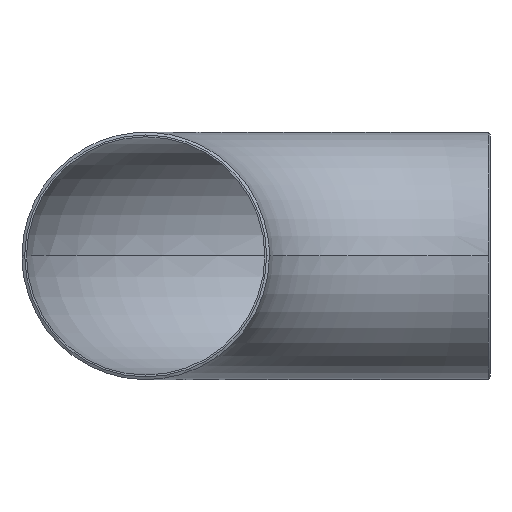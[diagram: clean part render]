
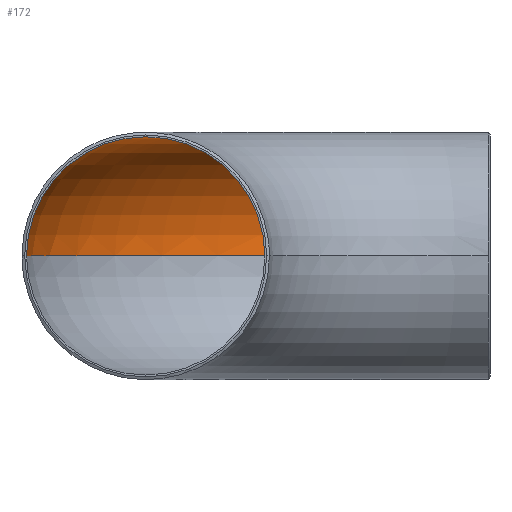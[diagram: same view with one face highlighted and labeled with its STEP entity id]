
A CAD part, front view. The second image highlights one B-rep face of the part: STEP entity #172.
In plain terms, the highlighted toroidal (fillet/blend) face has major radius 305 mm and minor radius 105.55 mm.
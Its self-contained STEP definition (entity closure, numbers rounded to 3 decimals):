
#8 = DIRECTION ( 'NONE',  ( 0., 0., 1. ) ) ;
#18 = FACE_OUTER_BOUND ( 'NONE', #340, .T. ) ;
#28 = CARTESIAN_POINT ( 'NONE',  ( 305., 0., 0. ) ) ;
#54 = ORIENTED_EDGE ( 'NONE', *, *, #470, .F. ) ;
#64 = CARTESIAN_POINT ( 'NONE',  ( 305., 199.45, 0. ) ) ;
#85 = AXIS2_PLACEMENT_3D ( 'NONE', #246, #8, #398 ) ;
#100 = TOROIDAL_SURFACE ( 'NONE', #316, 305., 105.55 ) ;
#115 = AXIS2_PLACEMENT_3D ( 'NONE', #524, #207, #256 ) ;
#119 = AXIS2_PLACEMENT_3D ( 'NONE', #28, #181, #501 ) ;
#163 = EDGE_CURVE ( 'NONE', #551, #179, #292, .T. ) ;
#168 = CARTESIAN_POINT ( 'NONE',  ( -105.55, 0., 0. ) ) ;
#172 = ADVANCED_FACE ( 'NONE', ( #18 ), #100, .F. ) ;
#179 = VERTEX_POINT ( 'NONE', #227 ) ;
#181 = DIRECTION ( 'NONE',  ( 0., 0., 1. ) ) ;
#207 = DIRECTION ( 'NONE',  ( 1., 0., 0. ) ) ;
#219 = VERTEX_POINT ( 'NONE', #437 ) ;
#224 = DIRECTION ( 'NONE',  ( 0., 0., 1. ) ) ;
#227 = CARTESIAN_POINT ( 'NONE',  ( 105.55, 0., 0. ) ) ;
#239 = ORIENTED_EDGE ( 'NONE', *, *, #542, .T. ) ;
#246 = CARTESIAN_POINT ( 'NONE',  ( 305., 0., 0. ) ) ;
#256 = DIRECTION ( 'NONE',  ( 0., 1., 0. ) ) ;
#292 = CIRCLE ( 'NONE', #119, 199.45 ) ;
#312 = CIRCLE ( 'NONE', #115, 105.55 ) ;
#316 = AXIS2_PLACEMENT_3D ( 'NONE', #372, #224, #327 ) ;
#327 = DIRECTION ( 'NONE',  ( 1., 0., 0. ) ) ;
#340 = EDGE_LOOP ( 'NONE', ( #351, #239, #540, #54 ) ) ;
#351 = ORIENTED_EDGE ( 'NONE', *, *, #484, .F. ) ;
#365 = CIRCLE ( 'NONE', #85, 410.55 ) ;
#372 = CARTESIAN_POINT ( 'NONE',  ( 305., 0., 0. ) ) ;
#398 = DIRECTION ( 'NONE',  ( 1., 0., 0. ) ) ;
#437 = CARTESIAN_POINT ( 'NONE',  ( 305., 410.55, 0. ) ) ;
#470 = EDGE_CURVE ( 'NONE', #571, #179, #487, .T. ) ;
#484 = EDGE_CURVE ( 'NONE', #219, #571, #365, .T. ) ;
#487 = CIRCLE ( 'NONE', #565, 105.55 ) ;
#501 = DIRECTION ( 'NONE',  ( 1., 0., 0. ) ) ;
#521 = DIRECTION ( 'NONE',  ( 0., 1., 0. ) ) ;
#524 = CARTESIAN_POINT ( 'NONE',  ( 305., 305., 0. ) ) ;
#540 = ORIENTED_EDGE ( 'NONE', *, *, #163, .T. ) ;
#542 = EDGE_CURVE ( 'NONE', #219, #551, #312, .T. ) ;
#551 = VERTEX_POINT ( 'NONE', #64 ) ;
#562 = DIRECTION ( 'NONE',  ( 0., 0., 1. ) ) ;
#565 = AXIS2_PLACEMENT_3D ( 'NONE', #609, #521, #562 ) ;
#571 = VERTEX_POINT ( 'NONE', #168 ) ;
#609 = CARTESIAN_POINT ( 'NONE',  ( 0., 0., 0. ) ) ;
